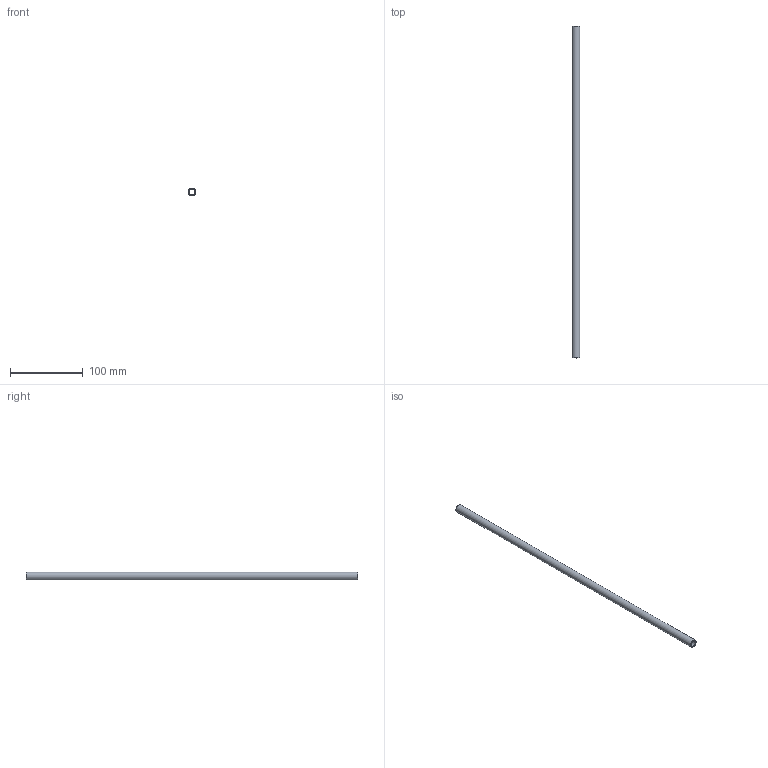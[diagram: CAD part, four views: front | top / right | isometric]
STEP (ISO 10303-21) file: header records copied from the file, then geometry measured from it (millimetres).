
FILE_DESCRIPTION(/* description */ (''),/* implementation_level */ '2;1');
FILE_NAME(/* name */ 'C:/Users/drich/Desktop/437T-18 v1.step',/* time_stamp */ '2019-12-27T17:32:51-06:00',/* author */ (''),/* organization */ (''),/* preprocessor_version */ 'ST-DEVELOPER v18',/* originating_system */ 'Autodesk Translation Framework v8.12.0.6',/* authorisation */ '');
FILE_SCHEMA (('AUTOMOTIVE_DESIGN { 1 0 10303 214 3 1 1 }'));
Length unit declared in the file: inch
Products named in the file (1): 437T-18
Bounding box: 10.98 x 457.2 x 10.98 mm (x, y, z)
Volume: 21438.2 mm3; surface area: 27052 mm2
Topology: 1 solids, 1 shells, 6 faces, 14 edges, 10 vertices
Faces by surface type: cone 2, cylinder 2, plane 2
Full cylindrical faces by diameter (mm): 7.798 x1, 10.978 x1
Entity records: 230 total; most frequent: DIRECTION 38, CARTESIAN_POINT 31, ORIENTED_EDGE 28, AXIS2_PLACEMENT_3D 17, EDGE_CURVE 14, CIRCLE 10, VERTEX_POINT 10, EDGE_LOOP 8
